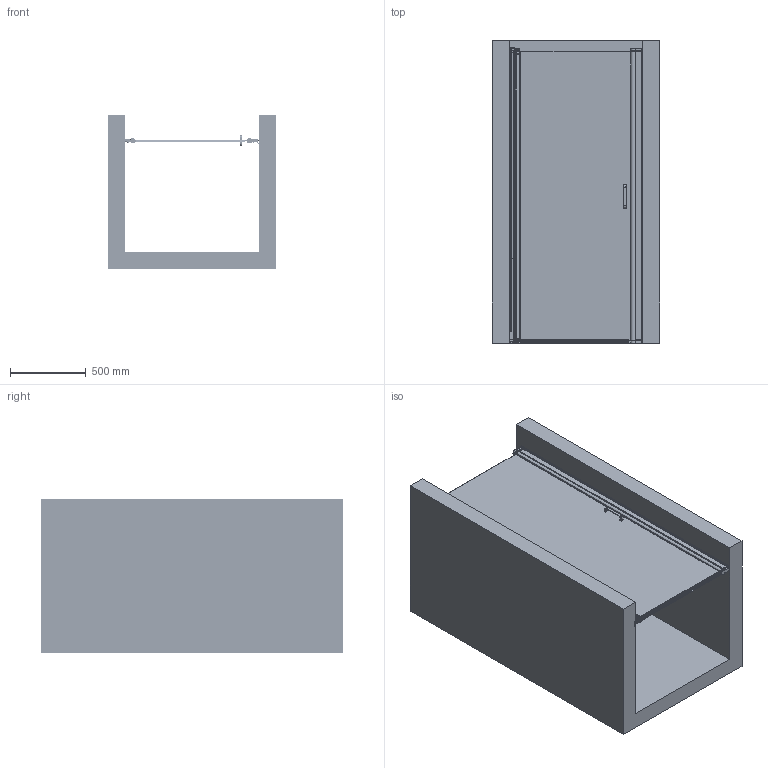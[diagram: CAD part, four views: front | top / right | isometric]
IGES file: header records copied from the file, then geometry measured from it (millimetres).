
Start section: SolidWorks IGES file using analytic representation for surfaces
Global section: file name: C:\Users\Administrator\Desktop\楷苤眢\A1011D 900X1950 6MM.IGS,15; native system: HSolidWorks 2014; preprocessor: SolidWorks 2014; author: Administrator; date: 190919.152044; units: millimetre
Bounding box: 1105.64 x 2000 x 1015.38 mm (x, y, z)
Surface area: 20292797 mm2 (no closed solid volume)
Topology: 0 solids, 0 shells, 4234 faces, 45956 edges, 45905 vertices
Faces by surface type: revolution 2542, bspline 1692
